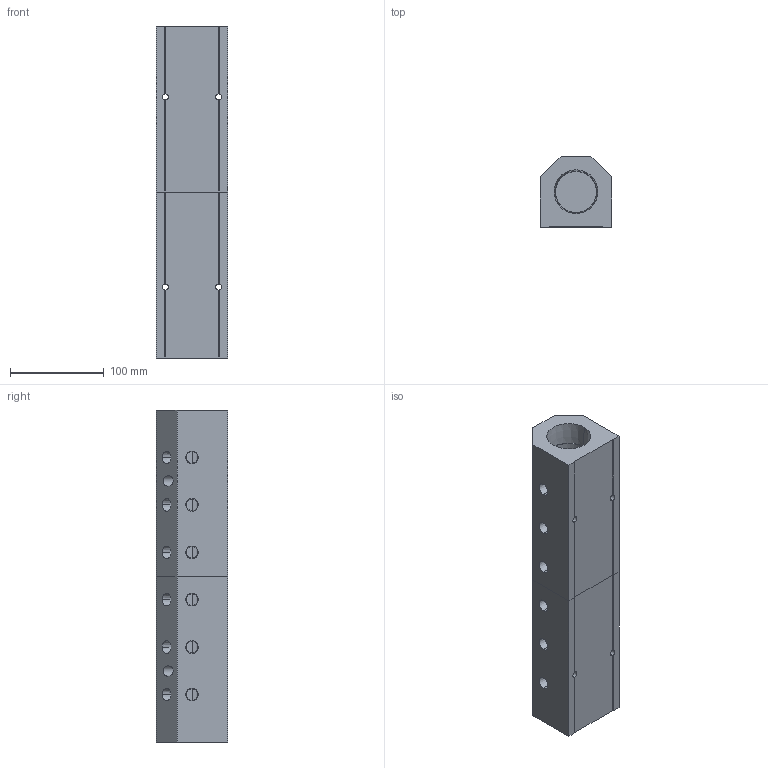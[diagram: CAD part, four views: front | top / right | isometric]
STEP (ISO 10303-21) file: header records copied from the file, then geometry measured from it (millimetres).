
FILE_DESCRIPTION (( 'STEP AP214' ), '1' );
FILE_NAME ('ALM6AB-N4N24-355RB.step', '2022-02-07T07:52:08', ( '' ), ( '' ), 'SwSTEP 2.0', 'SolidWorks 2020', '' );
FILE_SCHEMA (( 'AUTOMOTIVE_DESIGN' ));
Length unit declared in the file: millimetre
Products named in the file (1): ALM6AB-N4N24-355RB
Bounding box: 76.2 x 76.2 x 355 mm (x, y, z)
Volume: 1297282.2 mm3; surface area: 179464.3 mm2
Topology: 2 solids, 2 shells, 369 faces, 979 edges, 646 vertices
Faces by surface type: plane 249, bspline 72, cone 28, cylinder 20
Entity records: 20219 total; most frequent: CARTESIAN_POINT 8027, ORIENTED_EDGE 1958, DIRECTION 1455, EDGE_CURVE 979, VECTOR 731, LINE 731, VERTEX_POINT 646, EDGE_LOOP 433
